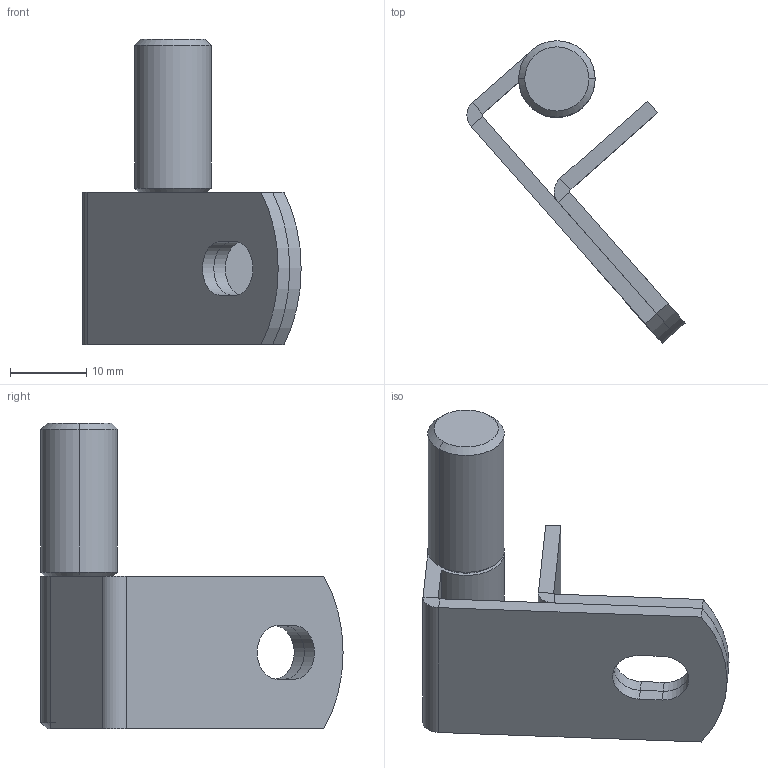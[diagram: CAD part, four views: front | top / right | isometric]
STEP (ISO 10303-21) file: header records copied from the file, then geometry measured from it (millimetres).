
FILE_DESCRIPTION (( 'STEP AP214' ), '1' );
FILE_NAME ('3.ST8.001.STEP', '2010-03-01T16:03:25', ( 'Piotr Zieliñski' ), ( 'Roztocze Z.U.P.' ), 'SwSTEP 2.0', 'SolidWorks 2004231', '' );
FILE_SCHEMA (( 'AUTOMOTIVE_DESIGN' ));
Length unit declared in the file: millimetre
Products named in the file (4): 3.ST8.001.02_Domyœlna; 3.ST8.001.03_Domyœlna; 3.ST8.001; 3.ST8.001.01_Domyœlna
Assembly tree (3 placements, depth 2):
  3.ST8.001
    3.ST8.001.01_Domyœlna
    3.ST8.001.03_Domyœlna
    3.ST8.001.02_Domyœlna
Bounding box: 28.55 x 39.52 x 40 mm (x, y, z)
Volume: 6220.5 mm3; surface area: 5702 mm2
Topology: 3 solids, 3 shells, 59 faces, 125 edges, 74 vertices
Faces by surface type: plane 30, cylinder 19, cone 10
Entity records: 1692 total; most frequent: DIRECTION 303, CARTESIAN_POINT 264, ORIENTED_EDGE 250, EDGE_CURVE 125, AXIS2_PLACEMENT_3D 113, VECTOR 77, LINE 77, VERTEX_POINT 74
